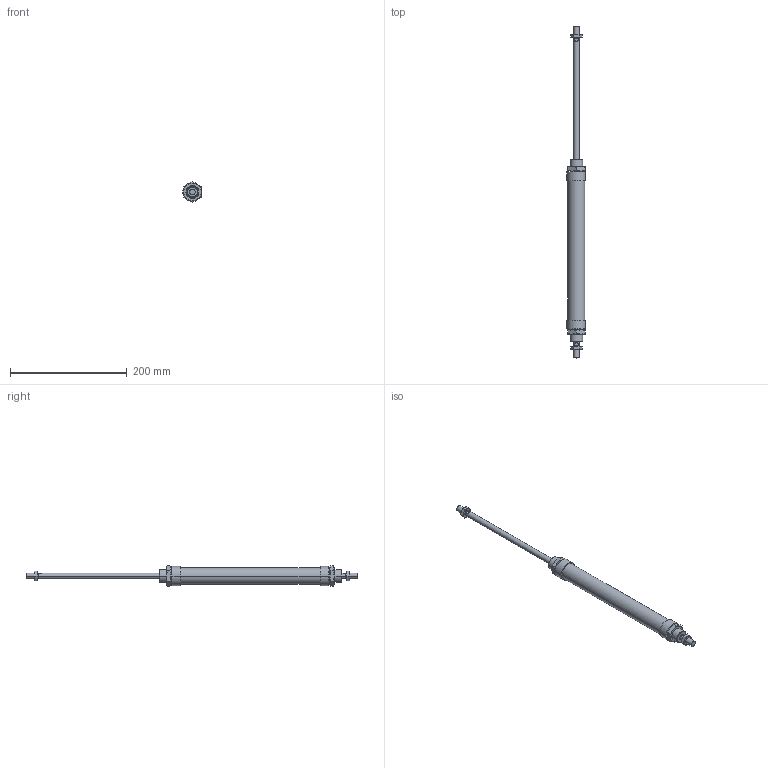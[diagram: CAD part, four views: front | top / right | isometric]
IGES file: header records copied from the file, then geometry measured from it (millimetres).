
Global section: file name: No Iges File Name specified; native system: AutoDesk Inventor R6.0; preprocessor: AutoDesk Inventor Iges Exporter R6.0; author: No Author specified; organization: No Organization specified; date: 20030403.072518; units: millimetre
Bounding box: 31.5 x 569 x 34.64 mm (x, y, z)
Volume: 226826.1 mm3; surface area: 63735.1 mm2
Topology: 6 solids, 6 shells, 184 faces, 396 edges, 232 vertices
Faces by surface type: cone 68, plane 60, bspline 30, cylinder 20, revolution 6
